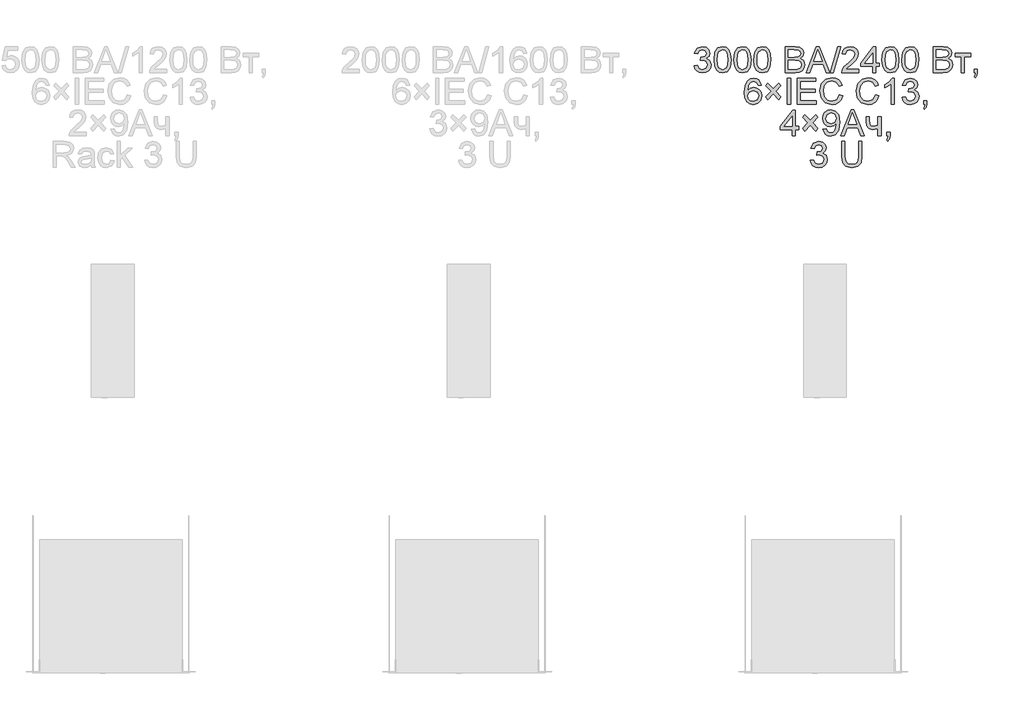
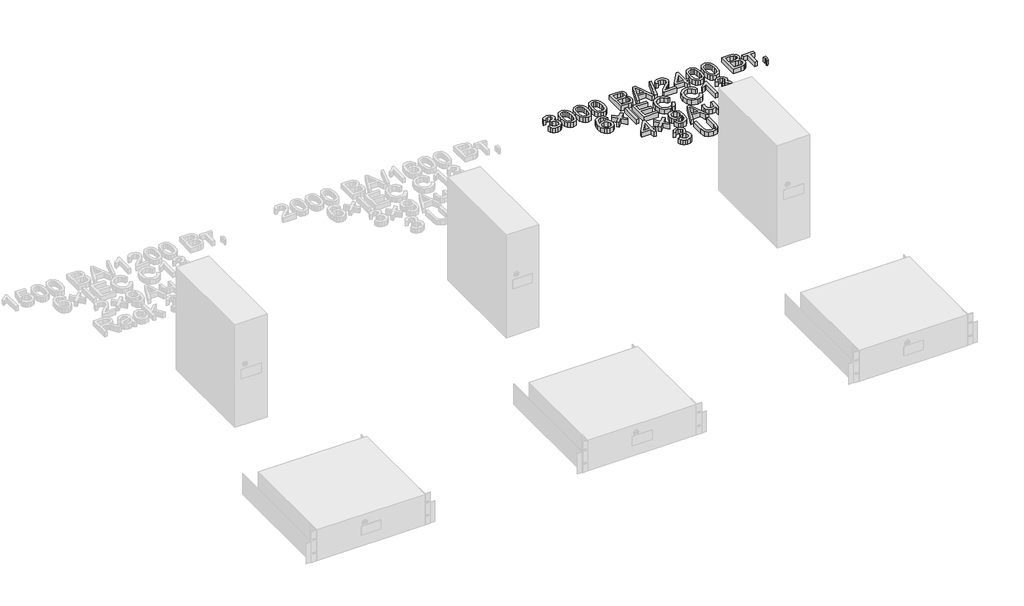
# One storey, part 74 of 74: 1 proxy.
"""IFC4 building model written with IfcOpenShell, lengths in millimetres."""

from ifc_helpers import new_model, si_unit, origin, origin_with_axes, place, context, project, spatial, polyline, outline, extrude, element, save

model = new_model("IFC4")

# Units and contexts
model_context = context("Model", 3, world=origin())
ifc_project = project(units=[si_unit("LENGTHUNIT", "METRE", prefix="MILLI")], contexts=[model_context])

# Site, building, storey
site = spatial("IfcSite", under=ifc_project)
building = spatial("IfcBuilding", under=site)
storey = spatial("IfcBuildingStorey", under=building, Name="Этаж 01", Elevation=0.0)

# Proxy
placement = place(None, origin())
element("IfcBuildingElementProxy", 1, Name="80 мм Arial", ObjectType="80 мм Arial", at=placement, inside=storey, context=model_context, shape_type="SweptSolid", body=[
    extrude(outline(polyline([(4248.3992453, 4983.7121074), (4258.4448763, 4984.9678113), (4263.9876317, 4974.3924302), (4274.3569989, 4971.1550687), (4286.560871, 4975.6088934), (4291.0931771, 4986.635543), (4286.6001117, 4997.0245306), (4275.1810546, 5001.1349987), (4268.1373406, 5000.0362578), (4269.2557019, 5010.0818888), (4270.8645725, 5009.9641666), (4282.2640093, 5012.8483615), (4287.3260655, 5021.7167701), (4283.6570557, 5029.5747295), (4274.2000359, 5032.6845586), (4264.6252939, 5029.5452989), (4259.7005802, 5020.1275199), (4249.6549492, 5021.3832237), (4257.8758855, 5037.1383833), (4273.8468692, 5042.7301896), (4285.9624496, 5039.9735272), (4294.4384508, 5032.439304), (4297.3716965, 5022.3053813), (4294.5856036, 5013.0445652), (4286.3450469, 5006.3932587), (4297.293215, 4999.5261281), (4301.1388082, 4986.4589597), (4299.2160116, 4976.6683935), (4293.4476219, 4968.4866979), (4284.7410814, 4962.9537527), (4274.0038322, 4961.1094377), (4264.2917475, 4962.6839726), (4256.3847372, 4967.4075774), (4250.8861276, 4974.6327798), (4248.3992453, 4983.7121074)])), origin_with_axes(), (0.0, 0.0, 1.0), 20.0),
    extrude(outline(polyline([(4309.9287353, 5001.9001933), (4312.8816014, 5025.0228029), (4321.6519082, 5038.3548465), (4336.2985167, 5042.7301896), (4348.0314998, 5040.1403004), (4356.1347139, 5032.6747484), (4360.8436034, 5020.7848024), (4362.6682981, 5001.9001933), (4359.7448625, 4978.8756855), (4351.0039863, 4965.5142114), (4336.2985167, 4961.1094377), (4325.8604782, 4963.022424), (4317.9338475, 4968.7613832), (4311.9300134, 4982.3533966), (4309.9287353, 5001.9001933)]), holes=[polyline([(4319.9743663, 5001.9198136), (4321.1515887, 4986.1180557), (4324.6832558, 4976.9725093), (4336.2985167, 4971.1550687), (4347.9137776, 4976.9921297), (4351.4454447, 4986.1425811), (4352.6226671, 5001.9198136), (4351.4846855, 5017.3659524), (4348.0707406, 5026.5826226), (4342.8222908, 5031.1590746), (4336.1807945, 5032.6845586), (4324.8402188, 5027.3085764), (4321.1908294, 5017.5180102), (4319.9743663, 5001.9198136)])]), origin_with_axes(), (0.0, 0.0, 1.0), 20.0),
    extrude(outline(polyline([(4371.4582253, 5001.9001933), (4374.4110914, 5025.0228029), (4383.1813982, 5038.3548465), (4397.8280067, 5042.7301896), (4409.5609898, 5040.1403004), (4417.6642039, 5032.6747484), (4422.3730934, 5020.7848024), (4424.1977881, 5001.9001933), (4421.2743525, 4978.8756855), (4412.5334763, 4965.5142114), (4397.8280067, 4961.1094377), (4387.3899682, 4963.022424), (4379.4633375, 4968.7613832), (4373.4595033, 4982.3533966), (4371.4582253, 5001.9001933)]), holes=[polyline([(4381.5038563, 5001.9198136), (4382.6810787, 4986.1180557), (4386.2127458, 4976.9725093), (4397.8280067, 4971.1550687), (4409.4432675, 4976.9921297), (4412.9749347, 4986.1425811), (4414.1521571, 5001.9198136), (4413.0141754, 5017.3659524), (4409.6002305, 5026.5826226), (4404.3517807, 5031.1590746), (4397.7102844, 5032.6845586), (4386.3697088, 5027.3085764), (4382.7203194, 5017.5180102), (4381.5038563, 5001.9198136)])]), origin_with_axes(), (0.0, 0.0, 1.0), 20.0),
    extrude(outline(polyline([(4432.9877152, 5001.9001933), (4435.9405814, 5025.0228029), (4444.7108881, 5038.3548465), (4459.3574966, 5042.7301896), (4471.0904797, 5040.1403004), (4479.1936938, 5032.6747484), (4483.9025834, 5020.7848024), (4485.7272781, 5001.9001933), (4482.8038425, 4978.8756855), (4474.0629663, 4965.5142114), (4459.3574966, 4961.1094377), (4448.9194582, 4963.022424), (4440.9928274, 4968.7613832), (4434.9889933, 4982.3533966), (4432.9877152, 5001.9001933)]), holes=[polyline([(4443.0333462, 5001.9198136), (4444.2105686, 4986.1180557), (4447.7422358, 4976.9725093), (4459.3574966, 4971.1550687), (4470.9727575, 4976.9921297), (4474.5044247, 4986.1425811), (4475.681647, 5001.9198136), (4474.5436654, 5017.3659524), (4471.1297205, 5026.5826226), (4465.8812707, 5031.1590746), (4459.2397744, 5032.6845586), (4447.8991988, 5027.3085764), (4444.2498094, 5017.5180102), (4443.0333462, 5001.9198136)])]), origin_with_axes(), (0.0, 0.0, 1.0), 20.0),
    extrude(outline(polyline([(4529.6769137, 4962.3651415), (4529.6769137, 5042.7301896), (4560.3435569, 5042.7301896), (4575.3629525, 5040.3659347), (4584.2313611, 5033.0965865), (4587.4392921, 5022.815511), (4584.7414908, 5013.4271625), (4576.5892258, 5006.3147772), (4586.487704, 4998.8197947), (4589.9506998, 4986.3216171), (4587.5864449, 4975.5206017), (4581.7297635, 4967.8294154), (4572.9888873, 4963.7483778), (4560.1081124, 4962.3651415), (4529.6769137, 4962.3651415)]), holes=[polyline([(4539.7225448, 4972.4107725), (4560.3239365, 4972.4107725), (4567.7796783, 4972.80318), (4574.0876282, 4974.9908516), (4578.2667677, 4979.4544865), (4579.9050688, 4986.2235152), (4577.9822723, 4994.0324237), (4571.7528038, 4998.6922623), (4559.3429178, 5000.0362578), (4539.7225448, 5000.0362578), (4539.7225448, 4972.4107725)]), polyline([(4539.7225448, 5010.0818888), (4558.0675936, 5010.0818888), (4568.7803173, 5010.9451853), (4575.2256098, 5014.663246), (4577.3936611, 5021.2066404), (4575.3727626, 5027.759845), (4569.5847526, 5031.6348687), (4556.6745471, 5032.6845586), (4539.7225448, 5032.6845586), (4539.7225448, 5010.0818888)])]), origin_with_axes(), (0.0, 0.0, 1.0), 20.0),
    extrude(outline(polyline([(4594.4045245, 4962.3651415), (4626.4838345, 5042.7301896), (4635.0383172, 5042.7301896), (4667.1176271, 4962.3651415), (4656.5030053, 4962.3651415), (4647.3010503, 4987.4792191), (4614.201481, 4987.4792191), (4605.0191464, 4962.3651415), (4594.4045245, 4962.3651415)]), holes=[polyline([(4617.8901111, 4997.5248501), (4643.6320406, 4997.5248501), (4636.3921229, 5017.2825658), (4630.7610758, 5032.6845586), (4625.7578807, 5019.0091586), (4617.8901111, 4997.5248501)])]), origin_with_axes(), (0.0, 0.0, 1.0), 20.0),
    extrude(outline(polyline([(4669.0600441, 4962.3651415), (4691.6627139, 5042.7301896), (4700.7273262, 5042.7301896), (4678.1246564, 4962.3651415), (4669.0600441, 4962.3651415)])), origin_with_axes(), (0.0, 0.0, 1.0), 20.0),
    extrude(outline(polyline([(4756.9593155, 4972.4107725), (4756.9593155, 4962.3651415), (4704.2197526, 4962.3651415), (4705.2988732, 4969.2911332), (4711.4008092, 4979.954806), (4723.9774683, 4991.5994974), (4741.3218781, 5008.3356756), (4745.6579806, 5019.715492), (4741.5671328, 5028.9272572), (4730.8838396, 5032.6845586), (4719.7492779, 5029.0155489), (4715.5210875, 5018.871816), (4705.4754565, 5020.1275199), (4707.9108353, 5029.8445096), (4713.1764529, 5036.9421796), (4720.9976242, 5041.2831871), (4731.0996637, 5042.7301896), (4741.2752797, 5041.1213191), (4749.0817357, 5036.2947073), (4754.0481426, 5029.0842202), (4755.7036116, 5020.3237236), (4753.9181576, 5010.7980325), (4747.9829948, 5000.9486052), (4733.5914511, 4987.1849135), (4722.0350514, 4977.5218797), (4717.5027452, 4972.4107725), (4756.9593155, 4972.4107725)])), origin_with_axes(), (0.0, 0.0, 1.0), 20.0),
    extrude(outline(polyline([(4799.6532473, 4962.3651415), (4799.6532473, 4981.2006997), (4763.2378348, 4981.2006997), (4763.2378348, 4991.2463307), (4802.164655, 5041.4744858), (4809.6988783, 5041.4744858), (4809.6988783, 4991.2463307), (4819.7445093, 4991.2463307), (4819.7445093, 4981.2006997), (4809.6988783, 4981.2006997), (4809.6988783, 4962.3651415), (4799.6532473, 4962.3651415)]), holes=[polyline([(4799.6532473, 4991.2463307), (4799.6532473, 5022.2857609), (4775.5986699, 4991.2463307), (4799.6532473, 4991.2463307)])]), origin_with_axes(), (0.0, 0.0, 1.0), 20.0),
    extrude(outline(polyline([(4828.5344364, 5001.9001933), (4831.4873026, 5025.0228029), (4840.2576094, 5038.3548465), (4854.9042179, 5042.7301896), (4866.637201, 5040.1403004), (4874.740415, 5032.6747484), (4879.4493046, 5020.7848024), (4881.2739993, 5001.9001933), (4878.3505637, 4978.8756855), (4869.6096875, 4965.5142114), (4854.9042179, 4961.1094377), (4844.4661794, 4963.022424), (4836.5395487, 4968.7613832), (4830.5357145, 4982.3533966), (4828.5344364, 5001.9001933)]), holes=[polyline([(4838.5800675, 5001.9198136), (4839.7572898, 4986.1180557), (4843.288957, 4976.9725093), (4854.9042179, 4971.1550687), (4866.5194787, 4976.9921297), (4870.0511459, 4986.1425811), (4871.2283683, 5001.9198136), (4870.0903866, 5017.3659524), (4866.6764417, 5026.5826226), (4861.4279919, 5031.1590746), (4854.7864956, 5032.6845586), (4843.44592, 5027.3085764), (4839.7965306, 5017.5180102), (4838.5800675, 5001.9198136)])]), origin_with_axes(), (0.0, 0.0, 1.0), 20.0),
    extrude(outline(polyline([(4890.0639264, 5001.9001933), (4893.0167926, 5025.0228029), (4901.7870993, 5038.3548465), (4916.4337078, 5042.7301896), (4928.1666909, 5040.1403004), (4936.269905, 5032.6747484), (4940.9787945, 5020.7848024), (4942.8034892, 5001.9001933), (4939.8800537, 4978.8756855), (4931.1391774, 4965.5142114), (4916.4337078, 4961.1094377), (4905.9956693, 4963.022424), (4898.0690386, 4968.7613832), (4892.0652045, 4982.3533966), (4890.0639264, 5001.9001933)]), holes=[polyline([(4900.1095574, 5001.9198136), (4901.2867798, 4986.1180557), (4904.818447, 4976.9725093), (4916.4337078, 4971.1550687), (4928.0489687, 4976.9921297), (4931.5806358, 4986.1425811), (4932.7578582, 5001.9198136), (4931.6198766, 5017.3659524), (4928.2059317, 5026.5826226), (4922.9574819, 5031.1590746), (4916.3159856, 5032.6845586), (4904.9754099, 5027.3085764), (4901.3260206, 5017.5180102), (4900.1095574, 5001.9198136)])]), origin_with_axes(), (0.0, 0.0, 1.0), 20.0),
    extrude(outline(polyline([(4986.7531249, 4962.3651415), (4986.7531249, 5042.7301896), (5017.419768, 5042.7301896), (5032.4391636, 5040.3659347), (5041.3075723, 5033.0965865), (5044.5155033, 5022.815511), (5041.817702, 5013.4271625), (5033.665437, 5006.3147772), (5043.5639152, 4998.8197947), (5047.026911, 4986.3216171), (5044.6626561, 4975.5206017), (5038.8059747, 4967.8294154), (5030.0650985, 4963.7483778), (5017.1843236, 4962.3651415), (4986.7531249, 4962.3651415)]), holes=[polyline([(4996.7987559, 5010.0818888), (5015.1438048, 5010.0818888), (5025.8565285, 5010.9451853), (5032.301821, 5014.663246), (5034.4698723, 5021.2066404), (5032.4489738, 5027.759845), (5026.6609638, 5031.6348687), (5013.7507583, 5032.6845586), (4996.7987559, 5032.6845586), (4996.7987559, 5010.0818888)]), polyline([(4996.7987559, 4972.4107725), (5017.4001477, 4972.4107725), (5024.8558894, 4972.80318), (5031.1638394, 4974.9908516), (5035.3429789, 4979.4544865), (5036.98128, 4986.2235152), (5035.0584834, 4994.0324237), (5028.829015, 4998.6922623), (5016.419129, 5000.0362578), (4996.7987559, 5000.0362578), (4996.7987559, 4972.4107725)])]), origin_with_axes(), (0.0, 0.0, 1.0), 20.0),
    extrude(outline(polyline([(5054.5611343, 5021.3832237), (5102.2778816, 5021.3832237), (5102.2778816, 5011.3375927), (5083.4423234, 5011.3375927), (5083.4423234, 4962.3651415), (5073.3966924, 4962.3651415), (5073.3966924, 5011.3375927), (5054.5611343, 5011.3375927), (5054.5611343, 5021.3832237)])), origin_with_axes(), (0.0, 0.0, 1.0), 20.0),
    extrude(outline(polyline([(5113.5792165, 4962.3651415), (5113.5792165, 4972.4107725), (5123.6248475, 4972.4107725), (5123.6248475, 4962.3651415), (5121.8197732, 4952.0938762), (5116.0906242, 4946.0409911), (5113.5792165, 4949.8081028), (5117.2678466, 4954.1442052), (5118.5824116, 4962.3651415), (5113.5792165, 4962.3651415)])), origin_with_axes(), (0.0, 0.0, 1.0), 20.0),
    extrude(outline(polyline([(4456.218237, 4923.8033695), (4446.1726059, 4922.5476656), (4442.3662536, 4930.9255649), (4432.3010022, 4935.1047044), (4423.2363898, 4932.6717781), (4416.3790694, 4923.5384944), (4413.5243051, 4905.634904), (4422.3829036, 4913.6498264), (4433.3605023, 4916.2691462), (4442.6409388, 4914.4787872), (4450.4302269, 4909.10771), (4455.7130123, 4900.901489), (4457.4739408, 4890.6056982), (4454.1580978, 4876.7439046), (4445.0346243, 4866.9337181), (4431.869354, 4863.5295834), (4420.4723698, 4865.7859263), (4411.3954947, 4872.554955), (4405.4578793, 4884.5037622), (4403.4786741, 4902.2994406), (4405.6761559, 4922.307316), (4412.2686013, 4935.9876211), (4421.2694474, 4942.8596568), (4432.9288541, 4945.1503354), (4441.7433067, 4943.7327634), (4448.8017359, 4939.4800476), (4456.218237, 4923.8033695)]), holes=[polyline([(4413.5243051, 4890.7626612), (4415.8493193, 4882.0610257), (4422.0297369, 4875.7432656), (4431.084539, 4873.5752144), (4442.9254342, 4878.0682798), (4447.4283098, 4890.2721519), (4442.9842953, 4901.956084), (4430.6725112, 4906.2235152), (4418.5176901, 4901.956084), (4413.5243051, 4890.7626612)])]), origin_with_axes(), (0.0, 0.0, 1.0), 20.0),
    extrude(outline(polyline([(4470.1094611, 4887.387957), (4486.0608244, 4904.3399594), (4470.1094611, 4921.2919617), (4476.309499, 4930.0818888), (4493.3399828, 4912.0703864), (4510.2919851, 4930.0818888), (4516.492023, 4921.2919617), (4500.5406597, 4904.3399594), (4516.492023, 4887.387957), (4510.2919851, 4878.5980299), (4493.3399828, 4896.6095324), (4476.309499, 4878.5980299), (4470.1094611, 4887.387957)])), origin_with_axes(), (0.0, 0.0, 1.0), 20.0),
    extrude(outline(polyline([(4536.5832851, 4864.7852873), (4536.5832851, 4945.1503354), (4546.6289161, 4945.1503354), (4546.6289161, 4864.7852873), (4536.5832851, 4864.7852873)])), origin_with_axes(), (0.0, 0.0, 1.0), 20.0),
    extrude(outline(polyline([(4566.7201781, 4864.7852873), (4566.7201781, 4945.1503354), (4624.4825565, 4945.1503354), (4624.4825565, 4935.1047044), (4576.7658091, 4935.1047044), (4576.7658091, 4911.2463307), (4621.9711487, 4911.2463307), (4621.9711487, 4901.2006997), (4576.7658091, 4901.2006997), (4576.7658091, 4874.8309183), (4625.7382603, 4874.8309183), (4625.7382603, 4864.7852873), (4566.7201781, 4864.7852873)])), origin_with_axes(), (0.0, 0.0, 1.0), 20.0),
    extrude(outline(polyline([(4697.3133813, 4893.3525505), (4707.3590123, 4890.7626612), (4702.7236992, 4879.0566561), (4695.4494459, 4870.504626), (4685.8943242, 4865.273344), (4674.4164059, 4863.5295834), (4653.5108984, 4868.8074637), (4641.2481652, 4884.0917344), (4637.0395952, 4905.5760429), (4641.7975357, 4927.4135181), (4655.3257829, 4941.5696173), (4674.63223, 4946.4060392), (4685.646617, 4944.8413145), (4694.7529226, 4940.1471402), (4701.6666516, 4932.612917), (4706.1033084, 4922.5280452), (4696.0576774, 4920.1343597), (4687.8171207, 4932.4853846), (4674.2398226, 4936.3604082), (4658.5239037, 4932.0635465), (4649.6456849, 4920.5267672), (4647.0852262, 4905.5956633), (4650.1165739, 4888.2904942), (4659.5539733, 4877.234414), (4673.4157669, 4873.5752144), (4688.7883292, 4878.5587892), (4697.3133813, 4893.3525505)])), origin_with_axes(), (0.0, 0.0, 1.0), 20.0),
    extrude(outline(polyline([(4809.0710264, 4893.3525505), (4819.1166574, 4890.7626612), (4814.4813442, 4879.0566561), (4807.2070909, 4870.504626), (4797.6519692, 4865.273344), (4786.174051, 4863.5295834), (4765.2685435, 4868.8074637), (4753.0058103, 4884.0917344), (4748.7972403, 4905.5760429), (4753.5551807, 4927.4135181), (4767.083428, 4941.5696173), (4786.3898751, 4946.4060392), (4797.404262, 4944.8413145), (4806.5105677, 4940.1471402), (4813.4242966, 4932.612917), (4817.8609535, 4922.5280452), (4807.8153225, 4920.1343597), (4799.5747658, 4932.4853846), (4785.9974676, 4936.3604082), (4770.2815488, 4932.0635465), (4761.40333, 4920.5267672), (4758.8428713, 4905.5956633), (4761.8742189, 4888.2904942), (4771.3116184, 4877.234414), (4785.1734119, 4873.5752144), (4800.5459743, 4878.5587892), (4809.0710264, 4893.3525505)])), origin_with_axes(), (0.0, 0.0, 1.0), 20.0),
    extrude(outline(polyline([(4866.8334047, 4864.7852873), (4856.7877737, 4864.7852873), (4856.7877737, 4927.4135181), (4847.2718927, 4920.6346792), (4836.6965116, 4915.5628128), (4836.6965116, 4925.0590733), (4851.4216016, 4934.457232), (4860.3586816, 4945.1503354), (4866.8334047, 4945.1503354), (4866.8334047, 4864.7852873)])), origin_with_axes(), (0.0, 0.0, 1.0), 20.0),
    extrude(outline(polyline([(4890.6917783, 4886.1322532), (4900.7374094, 4887.387957), (4906.2801648, 4876.8125759), (4916.6495319, 4873.5752144), (4928.853404, 4878.0290391), (4933.3857102, 4889.0556887), (4928.8926447, 4899.4446763), (4917.4735876, 4903.5551445), (4910.4298737, 4902.4564036), (4911.5482349, 4912.5020346), (4913.1571055, 4912.3843123), (4924.5565423, 4915.2685072), (4929.6185985, 4924.1369158), (4925.9495888, 4931.9948752), (4916.4925689, 4935.1047044), (4906.9178269, 4931.9654447), (4901.9931132, 4922.5476656), (4891.9474822, 4923.8033695), (4900.1684185, 4939.558529), (4916.1394022, 4945.1503354), (4928.2549826, 4942.393673), (4936.7309838, 4934.8594497), (4939.6642295, 4924.725527), (4936.8781366, 4915.4647109), (4928.6375799, 4908.8134044), (4939.5857481, 4901.9462739), (4943.4313412, 4888.8791054), (4941.5085446, 4879.0885392), (4935.7401549, 4870.9068437), (4927.0336144, 4865.3738984), (4916.2963652, 4863.5295834), (4906.5842805, 4865.1041183), (4898.6772702, 4869.8277231), (4893.1786606, 4877.0529255), (4890.6917783, 4886.1322532)])), origin_with_axes(), (0.0, 0.0, 1.0), 20.0),
    extrude(outline(polyline([(4957.2440838, 4864.7852873), (4957.2440838, 4874.8309183), (4967.2897148, 4874.8309183), (4967.2897148, 4864.7852873), (4965.4846405, 4854.5140219), (4959.7554916, 4848.4611369), (4957.2440838, 4852.2282485), (4960.932714, 4856.5643509), (4962.247279, 4864.7852873), (4957.2440838, 4864.7852873)])), origin_with_axes(), (0.0, 0.0, 1.0), 20.0),
    extrude(outline(polyline([(4551.0238797, 4767.205433), (4551.0238797, 4786.0409911), (4514.6084672, 4786.0409911), (4514.6084672, 4796.0866221), (4553.5352874, 4846.3147772), (4561.0695107, 4846.3147772), (4561.0695107, 4796.0866221), (4571.1151417, 4796.0866221), (4571.1151417, 4786.0409911), (4561.0695107, 4786.0409911), (4561.0695107, 4767.205433), (4551.0238797, 4767.205433)]), holes=[polyline([(4551.0238797, 4796.0866221), (4551.0238797, 4827.1260524), (4526.9693023, 4796.0866221), (4551.0238797, 4796.0866221)])]), origin_with_axes(), (0.0, 0.0, 1.0), 20.0),
    extrude(outline(polyline([(4583.7506619, 4789.8081028), (4599.7020253, 4806.7601051), (4583.7506619, 4823.7121074), (4589.9506998, 4832.5020346), (4606.9811837, 4814.4905321), (4623.933186, 4832.5020346), (4630.1332239, 4823.7121074), (4614.1818606, 4806.7601051), (4630.1332239, 4789.8081028), (4623.933186, 4781.0181756), (4606.9811837, 4799.0296781), (4589.9506998, 4781.0181756), (4583.7506619, 4789.8081028)])), origin_with_axes(), (0.0, 0.0, 1.0), 20.0),
    extrude(outline(polyline([(4646.4573743, 4787.296695), (4656.5030053, 4788.5523989), (4661.0156911, 4778.9678466), (4669.5701738, 4775.9953601), (4677.7028184, 4777.9083465), (4683.2161433, 4783.0194537), (4686.5025557, 4791.7505197), (4687.9544634, 4803.4050213), (4687.8956022, 4805.3670586), (4679.8610595, 4797.7543539), (4668.84422, 4794.8309183), (4659.6839583, 4796.6163722), (4652.0589908, 4801.9727341), (4646.9160005, 4810.2476264), (4645.2016704, 4820.7886718), (4646.9993871, 4831.6779789), (4652.3925372, 4840.2128412), (4660.4932987, 4845.7310711), (4670.4138498, 4847.5704811), (4684.726912, 4843.3717213), (4694.5763393, 4831.4032937), (4697.9412332, 4808.9183461), (4694.5861495, 4784.5204122), (4684.6091897, 4770.6978594), (4669.0992848, 4765.9497291), (4660.5104665, 4767.3501332), (4653.6580512, 4771.5513456), (4646.4573743, 4787.296695)]), holes=[polyline([(4687.8956022, 4821.0241163), (4683.5594998, 4833.0710254), (4672.0423408, 4837.5248501), (4659.956191, 4832.7276689), (4655.2473014, 4820.2981625), (4659.7011261, 4809.1636008), (4671.7676556, 4804.8765493), (4683.3534859, 4809.1636008), (4687.8956022, 4821.0241163)])]), origin_with_axes(), (0.0, 0.0, 1.0), 20.0),
    extrude(outline(polyline([(4701.1393541, 4767.205433), (4733.218664, 4847.5704811), (4741.7731467, 4847.5704811), (4773.8524567, 4767.205433), (4763.2378348, 4767.205433), (4754.0358799, 4792.3195105), (4720.9363105, 4792.3195105), (4711.7539759, 4767.205433), (4701.1393541, 4767.205433)]), holes=[polyline([(4724.6249406, 4802.3651415), (4750.3668701, 4802.3651415), (4743.1269524, 4822.1228572), (4737.4959054, 4837.5248501), (4732.4927102, 4823.84945), (4724.6249406, 4802.3651415)])]), origin_with_axes(), (0.0, 0.0, 1.0), 20.0),
    extrude(outline(polyline([(4779.5619852, 4826.2235152), (4789.6076163, 4826.2235152), (4789.6076163, 4814.9025599), (4790.4218617, 4804.2879381), (4794.3361262, 4798.5391688), (4802.1057939, 4796.0866221), (4815.9773977, 4799.12778), (4815.9773977, 4826.2235152), (4826.0230287, 4826.2235152), (4826.0230287, 4767.205433), (4815.9773977, 4767.205433), (4815.9773977, 4789.4941768), (4799.4178028, 4786.0409911), (4788.0281762, 4789.6413296), (4781.3278188, 4798.4606873), (4779.5619852, 4809.9386055), (4779.5619852, 4826.2235152)])), origin_with_axes(), (0.0, 0.0, 1.0), 20.0),
    extrude(outline(polyline([(4843.602883, 4767.205433), (4843.602883, 4777.251064), (4853.648514, 4777.251064), (4853.648514, 4767.205433), (4851.8434397, 4756.9341677), (4846.1142907, 4750.8812826), (4843.602883, 4754.6483942), (4847.2915131, 4758.9844967), (4848.6060781, 4767.205433), (4843.602883, 4767.205433)])), origin_with_axes(), (0.0, 0.0, 1.0), 20.0),
    extrude(outline(polyline([(4607.5305541, 4690.9725446), (4617.5761851, 4692.2282485), (4623.1189405, 4681.6528674), (4633.4883077, 4678.4155058), (4645.6921797, 4682.8693305), (4650.2244859, 4693.8959802), (4645.7314205, 4704.2849677), (4634.3123634, 4708.3954359), (4627.2686494, 4707.296695), (4628.3870107, 4717.342326), (4629.9958813, 4717.2246038), (4641.395318, 4720.1087986), (4646.4573743, 4728.9772073), (4642.7883645, 4736.8351667), (4633.3313447, 4739.9449958), (4623.7566026, 4736.8057361), (4618.831889, 4727.387957), (4608.786258, 4728.6436609), (4617.0071943, 4744.3988205), (4632.978178, 4749.9906268), (4645.0937584, 4747.2339644), (4653.5697595, 4739.6997411), (4656.5030053, 4729.5658184), (4653.7169123, 4720.3050024), (4645.4763556, 4713.6536959), (4656.4245238, 4706.7865653), (4660.2701169, 4693.7193968), (4658.3473204, 4683.9288307), (4652.5789307, 4675.7471351), (4643.8723901, 4670.2141899), (4633.135141, 4668.3698748), (4623.4230563, 4669.9444098), (4615.516046, 4674.6680146), (4610.0174364, 4681.893217), (4607.5305541, 4690.9725446)])), origin_with_axes(), (0.0, 0.0, 1.0), 20.0),
    extrude(outline(polyline([(4756.9593155, 4749.9906268), (4767.0049465, 4749.9906268), (4767.0049465, 4703.6276852), (4764.2777146, 4684.4095298), (4754.4479077, 4672.8335097), (4735.8085533, 4668.3698748), (4717.4536943, 4672.2547087), (4707.2707206, 4683.5069927), (4704.2197526, 4703.6276852), (4704.2197526, 4749.9906268), (4714.2653836, 4749.9906268), (4714.2653836, 4703.980852), (4716.2470413, 4688.6671508), (4723.0553108, 4681.0838766), (4734.8667754, 4678.4155058), (4745.0840847, 4679.7349759), (4751.8776388, 4683.6933862), (4755.6888963, 4691.4041928), (4756.9593155, 4703.980852), (4756.9593155, 4749.9906268)])), origin_with_axes(), (0.0, 0.0, 1.0), 20.0),
])

save(model, "model.ifc")
